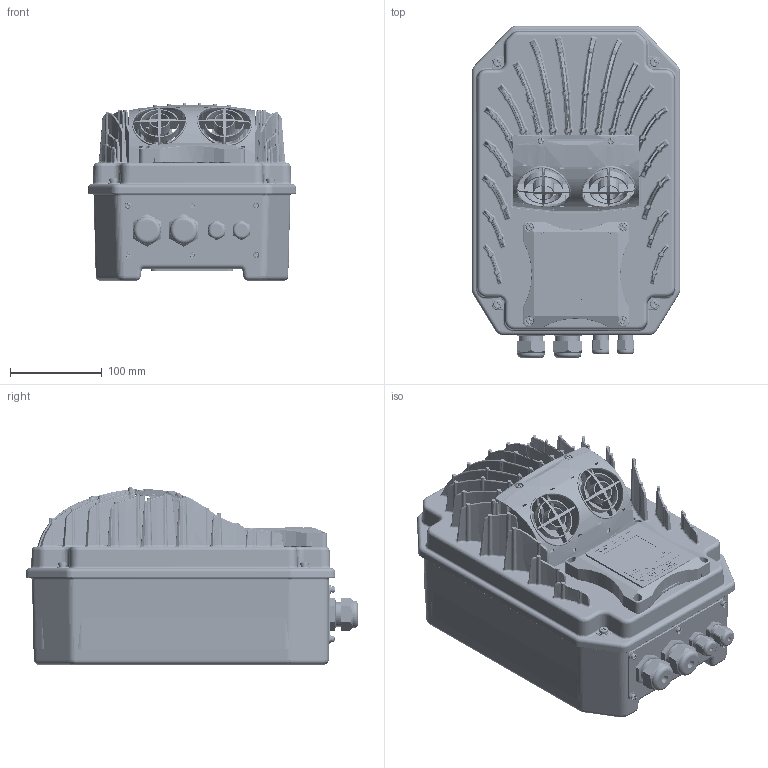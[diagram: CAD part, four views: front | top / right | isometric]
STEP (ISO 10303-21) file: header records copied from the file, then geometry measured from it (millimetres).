
FILE_DESCRIPTION((''),'2;1');
FILE_NAME('J2_ASM','2024-05-27T',('Lenovo'),(''),'CREO PARAMETRIC BY PTC INC, 2016130','CREO PARAMETRIC BY PTC INC, 2016130','');
FILE_SCHEMA(('AUTOMOTIVE_DESIGN { 1 0 10303 214 1 1 1 1 }'));
Products named in the file (12): BREP_WITH_VOIDS_1; _X2_96F64EF651E04F554F53_X0__2; _X2_96F64EF651E04F554F53_X0__3; _X2_96F64EF651E04F554F53_X0__4; _X2_96F64EF651E04F554F53_X0__5; _X2_96F64EF651E04F554F53_X0__6; _X2_96F64EF651E04F554F53_X0__7; _X2_96F64EF651E04F554F53_X0__8; _X2_96F64EF651E04F554F53_X0__9; 88_96_1_MANIFOLD_SOLID_BREP__51; J2_1_ASM; J2_ASM
Assembly tree (11 placements, depth 3):
  J2_ASM
    J2_1_ASM
      BREP_WITH_VOIDS_1
      _X2_96F64EF651E04F554F53_X0__2
      _X2_96F64EF651E04F554F53_X0__3
      _X2_96F64EF651E04F554F53_X0__4
      _X2_96F64EF651E04F554F53_X0__5
      _X2_96F64EF651E04F554F53_X0__6
      _X2_96F64EF651E04F554F53_X0__7
      _X2_96F64EF651E04F554F53_X0__8
      _X2_96F64EF651E04F554F53_X0__9
      88_96_1_MANIFOLD_SOLID_BREP__51
Bounding box: 227.52 x 362.26 x 193.5 mm (x, y, z)
Volume: 9154360 mm3; surface area: 1051281.3 mm2
Topology: 12 solids, 48 shells, 9036 faces, 23445 edges, 14385 vertices
Faces by surface type: plane 3414, cylinder 2060, bspline 1470, torus 847, cone 559, sphere 447, extrusion 239
Entity records: 431805 total; most frequent: CARTESIAN_POINT 139621, ORIENTED_EDGE 45980, DIRECTION 39203, PRESENTATION_STYLE_ASSIGNMENT 25353, STYLED_ITEM 23188, CURVE_STYLE 23174, EDGE_CURVE 22992, AXIS2_PLACEMENT_3D 14419
